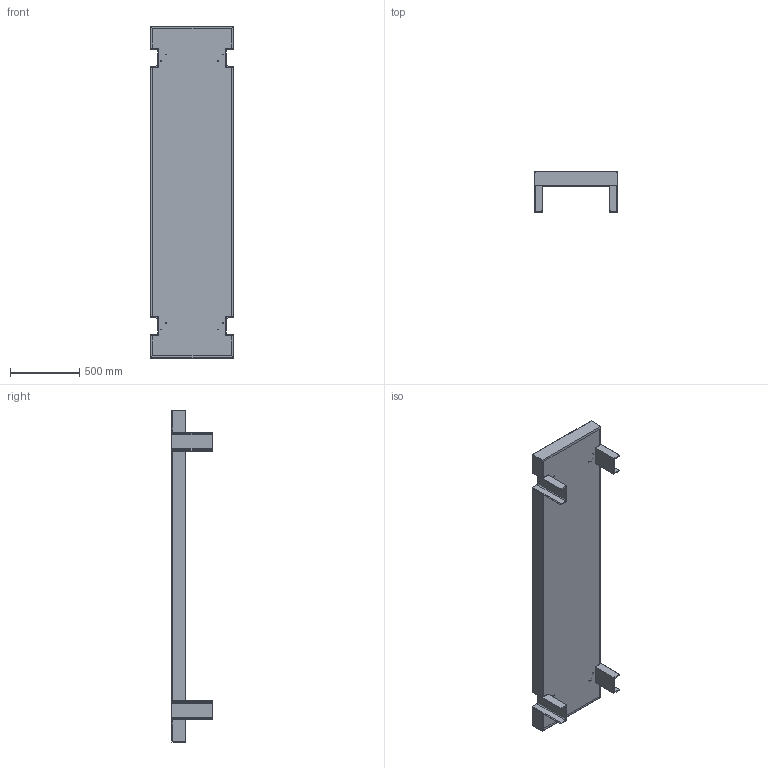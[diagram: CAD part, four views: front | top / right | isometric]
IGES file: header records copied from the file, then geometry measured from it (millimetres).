
Start section: SolidWorks IGES file using analytic representation for surfaces
Global section: file name: C:\Users\cersim\OneDrive - Gruppo Tecno\Desktop\MARKETING\T50 - 2400x600.IGS; native system: SolidWorks 2020; preprocessor: SolidWorks 2020; author: cersim; date: 210608.093728; units: millimetre
Bounding box: 600.26 x 290 x 2400 mm (x, y, z)
Surface area: 11863134 mm2 (no closed solid volume)
Topology: 0 solids, 0 shells, 452 faces, 5104 edges, 5088 vertices
Faces by surface type: bspline 292, revolution 160
